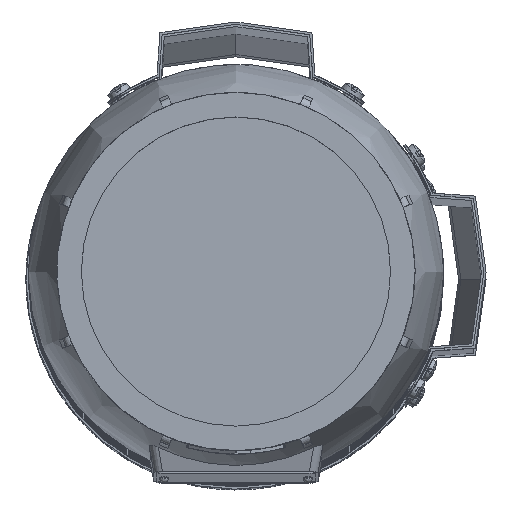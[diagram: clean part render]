
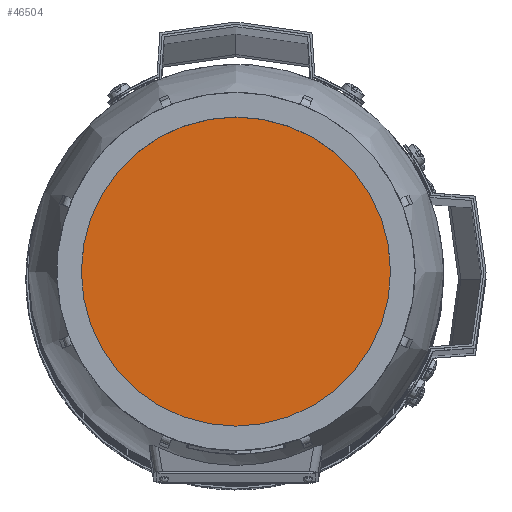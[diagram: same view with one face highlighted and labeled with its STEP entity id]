
A CAD part, top view. The second image highlights one B-rep face of the part: STEP entity #46504.
In plain terms, the highlighted planar face has unit normal (0, 0, 1) as drawn and (0, 1, 0) by its records, which use the part's own axes.
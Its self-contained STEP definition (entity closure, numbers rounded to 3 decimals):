
#9837=ORIENTED_EDGE('',*,*,#23893,.F.);
#23893=EDGE_CURVE('',#30921,#30921,#35651,.T.);
#30921=VERTEX_POINT('',#67145);
#35651=CIRCLE('',#49043,67.736);
#37774=EDGE_LOOP('',(#9837));
#41128=FACE_BOUND('',#37774,.T.);
#44500=PLANE('',#49042);
#46504=ADVANCED_FACE('',(#41128),#44500,.F.);
#49042=AXIS2_PLACEMENT_3D('',#67143,#53644,#53645);
#49043=AXIS2_PLACEMENT_3D('',#67144,#53646,#53647);
#53644=DIRECTION('',(0.,-1.,0.));
#53645=DIRECTION('',(0.,0.,-1.));
#53646=DIRECTION('',(0.,-1.,0.));
#53647=DIRECTION('',(0.,0.,-1.));
#67143=CARTESIAN_POINT('',(0.,154.,0.));
#67144=CARTESIAN_POINT('',(0.,154.,0.));
#67145=CARTESIAN_POINT('',(0.,154.,-67.736));
